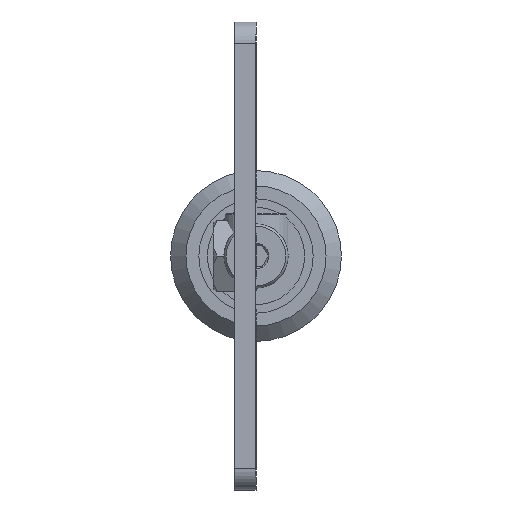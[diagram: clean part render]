
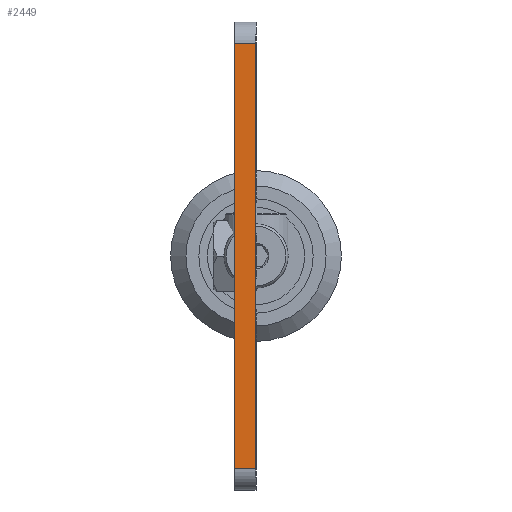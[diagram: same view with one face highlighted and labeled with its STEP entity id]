
A CAD part, left-side view. The second image highlights one B-rep face of the part: STEP entity #2449.
In plain terms, the highlighted planar face has unit normal (-1, 0, 0).
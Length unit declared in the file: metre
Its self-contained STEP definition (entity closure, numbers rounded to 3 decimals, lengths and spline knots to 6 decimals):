
#106=LINE('',#4305,#222);
#107=LINE('',#4308,#223);
#108=LINE('',#4310,#224);
#109=LINE('',#4312,#225);
#222=VECTOR('',#3488,1.);
#223=VECTOR('',#3489,1.);
#224=VECTOR('',#3490,1.);
#225=VECTOR('',#3491,1.);
#395=PLANE('',#2848);
#833=ORIENTED_EDGE('',*,*,#1302,.T.);
#834=ORIENTED_EDGE('',*,*,#1303,.F.);
#835=ORIENTED_EDGE('',*,*,#1304,.F.);
#836=ORIENTED_EDGE('',*,*,#1305,.T.);
#1302=EDGE_CURVE('',#1549,#1550,#106,.T.);
#1303=EDGE_CURVE('',#1551,#1550,#107,.T.);
#1304=EDGE_CURVE('',#1552,#1551,#108,.T.);
#1305=EDGE_CURVE('',#1552,#1549,#109,.T.);
#1549=VERTEX_POINT('',#4306);
#1550=VERTEX_POINT('',#4307);
#1551=VERTEX_POINT('',#4309);
#1552=VERTEX_POINT('',#4311);
#1908=EDGE_LOOP('',(#833,#834,#835,#836));
#2176=FACE_BOUND('',#1908,.T.);
#2449=ADVANCED_FACE('',(#2176),#395,.F.);
#2848=AXIS2_PLACEMENT_3D('',#4304,#3486,#3487);
#3486=DIRECTION('',(1.,0.,0.));
#3487=DIRECTION('',(0.,0.,-1.));
#3488=DIRECTION('',(0.,0.,1.));
#3489=DIRECTION('',(0.,-1.,0.));
#3490=DIRECTION('',(0.,0.,1.));
#3491=DIRECTION('',(0.,-1.,0.));
#4304=CARTESIAN_POINT('',(-0.03275,0.003,0.02975));
#4305=CARTESIAN_POINT('',(-0.03275,0.,-0.02975));
#4306=CARTESIAN_POINT('',(-0.03275,0.,-0.02975));
#4307=CARTESIAN_POINT('',(-0.03275,0.,0.02975));
#4308=CARTESIAN_POINT('',(-0.03275,0.003,0.02975));
#4309=CARTESIAN_POINT('',(-0.03275,0.003,0.02975));
#4310=CARTESIAN_POINT('',(-0.03275,0.003,-0.02975));
#4311=CARTESIAN_POINT('',(-0.03275,0.003,-0.02975));
#4312=CARTESIAN_POINT('',(-0.03275,0.003,-0.02975));
